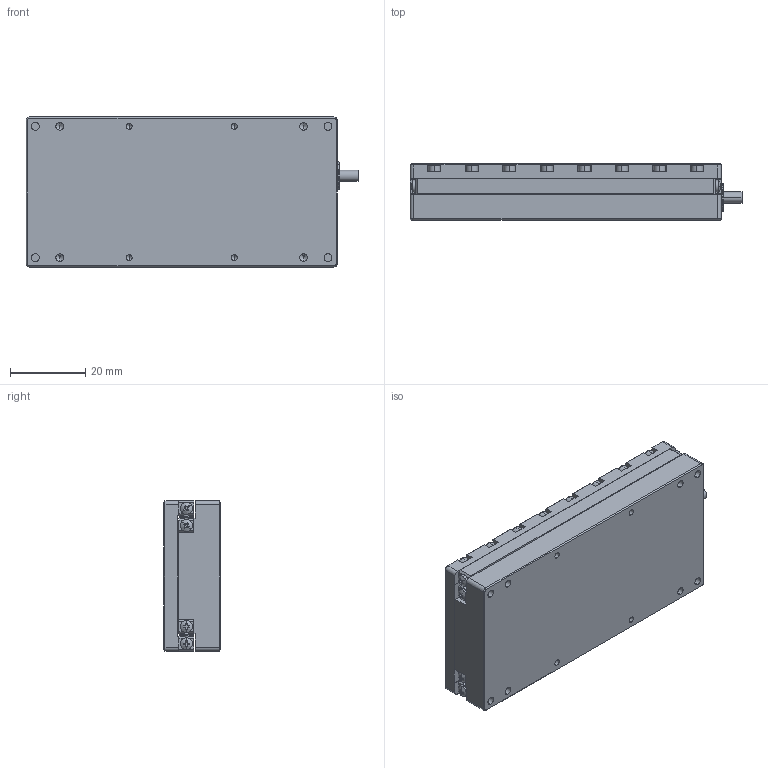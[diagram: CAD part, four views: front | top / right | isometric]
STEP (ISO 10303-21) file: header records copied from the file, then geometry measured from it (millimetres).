
FILE_DESCRIPTION (( 'STEP AP214' ), '1' );
FILE_NAME ('N56.50E-B1闭环直线压电马达3D图(24.02.27).STEP', '2026-05-29T07:39:02', ( '微软用户' ), ( '微软中国' ), 'SwSTEP 2.0', 'SolidWorks 2016', '' );
FILE_SCHEMA (( 'AUTOMOTIVE_DESIGN' ));
Length unit declared in the file: millimetre
Products named in the file (1): N56.50E-B1闭环直线压电马达3D图(24.02.27)
Bounding box: 88.5 x 15 x 40 mm (x, y, z)
Volume: 38105 mm3; surface area: 30195 mm2
Topology: 92 solids, 96 shells, 2158 faces, 5355 edges, 3426 vertices
Faces by surface type: plane 1033, cylinder 839, cone 206, bspline 80
Entity records: 66108 total; most frequent: CARTESIAN_POINT 12945, DIRECTION 11155, ORIENTED_EDGE 10394, EDGE_CURVE 5197, AXIS2_PLACEMENT_3D 4166, VERTEX_POINT 3426, VECTOR 2823, LINE 2823
